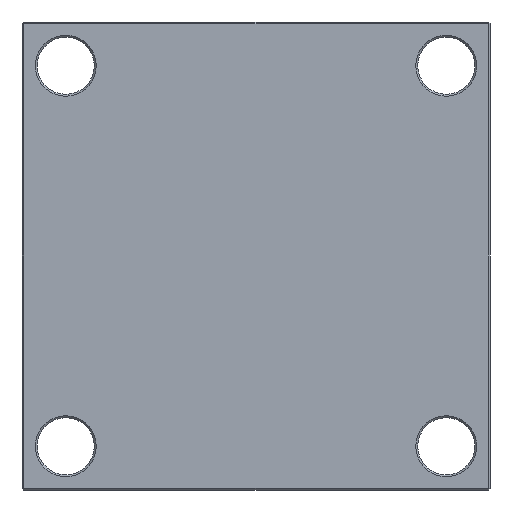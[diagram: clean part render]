
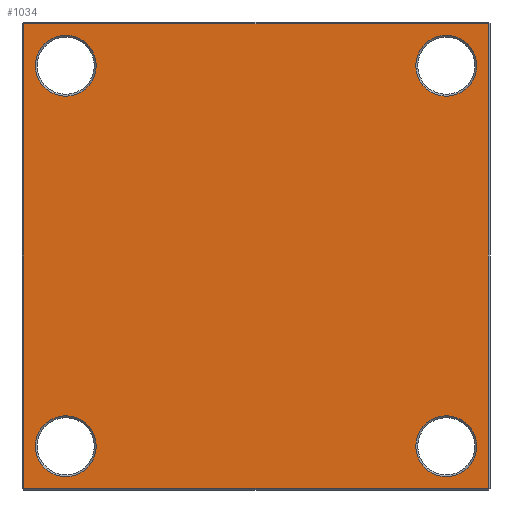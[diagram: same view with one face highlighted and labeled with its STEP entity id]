
A CAD part, front view. The second image highlights one B-rep face of the part: STEP entity #1034.
In plain terms, the highlighted planar face has unit normal (0, -1, 0).
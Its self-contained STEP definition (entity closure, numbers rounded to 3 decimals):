
#45 = DIRECTION ( 'NONE',  ( 0., 1., 0. ) ) ;
#48 = LINE ( 'NONE', #141, #2175 ) ;
#69 = LINE ( 'NONE', #726, #1301 ) ;
#71 = VERTEX_POINT ( 'NONE', #1731 ) ;
#73 = DIRECTION ( 'NONE',  ( 0., 0., 1. ) ) ;
#119 = DIRECTION ( 'NONE',  ( 0., 1., 0. ) ) ;
#141 = CARTESIAN_POINT ( 'NONE',  ( 122., 0., 0. ) ) ;
#144 = ORIENTED_EDGE ( 'NONE', *, *, #909, .T. ) ;
#145 = PLANE ( 'NONE',  #2111 ) ;
#150 = EDGE_LOOP ( 'NONE', ( #888, #2179, #1662, #826 ) ) ;
#177 = AXIS2_PLACEMENT_3D ( 'NONE', #904, #777, #1276 ) ;
#254 = AXIS2_PLACEMENT_3D ( 'NONE', #2042, #45, #1937 ) ;
#400 = EDGE_LOOP ( 'NONE', ( #417, #1569 ) ) ;
#417 = ORIENTED_EDGE ( 'NONE', *, *, #995, .T. ) ;
#469 = VECTOR ( 'NONE', #1854, 1000. ) ;
#475 = CARTESIAN_POINT ( 'NONE',  ( 122., 0., 122. ) ) ;
#508 = CIRCLE ( 'NONE', #1072, 16. ) ;
#528 = AXIS2_PLACEMENT_3D ( 'NONE', #903, #2181, #1930 ) ;
#529 = CARTESIAN_POINT ( 'NONE',  ( -100., 0., -84. ) ) ;
#590 = CARTESIAN_POINT ( 'NONE',  ( 100., 0., -116. ) ) ;
#630 = EDGE_LOOP ( 'NONE', ( #1980, #840 ) ) ;
#706 = ORIENTED_EDGE ( 'NONE', *, *, #1091, .T. ) ;
#712 = CARTESIAN_POINT ( 'NONE',  ( -122., 0., 0. ) ) ;
#726 = CARTESIAN_POINT ( 'NONE',  ( 0., 0., 122. ) ) ;
#729 = CARTESIAN_POINT ( 'NONE',  ( 0., 0., -122. ) ) ;
#760 = DIRECTION ( 'NONE',  ( 0., 0., -1. ) ) ;
#761 = ORIENTED_EDGE ( 'NONE', *, *, #1197, .T. ) ;
#777 = DIRECTION ( 'NONE',  ( 0., 1., 0. ) ) ;
#783 = EDGE_CURVE ( 'NONE', #1595, #1293, #1478, .T. ) ;
#826 = ORIENTED_EDGE ( 'NONE', *, *, #1826, .T. ) ;
#834 = CIRCLE ( 'NONE', #850, 16. ) ;
#840 = ORIENTED_EDGE ( 'NONE', *, *, #1435, .T. ) ;
#844 = DIRECTION ( 'NONE',  ( 0., 1., 0. ) ) ;
#850 = AXIS2_PLACEMENT_3D ( 'NONE', #1127, #1263, #1041 ) ;
#851 = CARTESIAN_POINT ( 'NONE',  ( -122., 0., 122. ) ) ;
#867 = VECTOR ( 'NONE', #760, 1000. ) ;
#887 = LINE ( 'NONE', #729, #469 ) ;
#888 = ORIENTED_EDGE ( 'NONE', *, *, #2009, .T. ) ;
#903 = CARTESIAN_POINT ( 'NONE',  ( -100., 0., 100. ) ) ;
#904 = CARTESIAN_POINT ( 'NONE',  ( 100., 0., 100. ) ) ;
#905 = AXIS2_PLACEMENT_3D ( 'NONE', #1142, #1585, #1955 ) ;
#909 = EDGE_CURVE ( 'NONE', #1947, #2028, #993, .T. ) ;
#970 = VERTEX_POINT ( 'NONE', #851 ) ;
#992 = CARTESIAN_POINT ( 'NONE',  ( 100., 0., -100. ) ) ;
#993 = CIRCLE ( 'NONE', #177, 16. ) ;
#995 = EDGE_CURVE ( 'NONE', #1284, #1150, #508, .T. ) ;
#998 = VERTEX_POINT ( 'NONE', #1510 ) ;
#1034 = ADVANCED_FACE ( 'NONE', ( #1498, #1170, #1441, #1219, #1618 ), #145, .F. ) ;
#1041 = DIRECTION ( 'NONE',  ( 0., 0., 1. ) ) ;
#1072 = AXIS2_PLACEMENT_3D ( 'NONE', #992, #1368, #1198 ) ;
#1084 = CARTESIAN_POINT ( 'NONE',  ( 100., 0., 84. ) ) ;
#1091 = EDGE_CURVE ( 'NONE', #2028, #1947, #2029, .T. ) ;
#1103 = VERTEX_POINT ( 'NONE', #475 ) ;
#1127 = CARTESIAN_POINT ( 'NONE',  ( -100., 0., 100. ) ) ;
#1142 = CARTESIAN_POINT ( 'NONE',  ( -100., 0., -100. ) ) ;
#1150 = VERTEX_POINT ( 'NONE', #1654 ) ;
#1160 = CIRCLE ( 'NONE', #254, 16. ) ;
#1170 = FACE_BOUND ( 'NONE', #400, .T. ) ;
#1184 = ORIENTED_EDGE ( 'NONE', *, *, #783, .T. ) ;
#1197 = EDGE_CURVE ( 'NONE', #1293, #1595, #1160, .T. ) ;
#1198 = DIRECTION ( 'NONE',  ( 0., 0., 1. ) ) ;
#1211 = DIRECTION ( 'NONE',  ( -1., 0., 0. ) ) ;
#1219 = FACE_BOUND ( 'NONE', #630, .T. ) ;
#1220 = CARTESIAN_POINT ( 'NONE',  ( -100., 0., -116. ) ) ;
#1237 = EDGE_LOOP ( 'NONE', ( #706, #144 ) ) ;
#1263 = DIRECTION ( 'NONE',  ( 0., 1., 0. ) ) ;
#1276 = DIRECTION ( 'NONE',  ( 0., 0., 1. ) ) ;
#1284 = VERTEX_POINT ( 'NONE', #590 ) ;
#1293 = VERTEX_POINT ( 'NONE', #1220 ) ;
#1301 = VECTOR ( 'NONE', #1211, 1000. ) ;
#1331 = EDGE_LOOP ( 'NONE', ( #761, #1184 ) ) ;
#1368 = DIRECTION ( 'NONE',  ( 0., 1., 0. ) ) ;
#1435 = EDGE_CURVE ( 'NONE', #998, #1517, #2180, .T. ) ;
#1441 = FACE_BOUND ( 'NONE', #1237, .T. ) ;
#1478 = CIRCLE ( 'NONE', #905, 16. ) ;
#1498 = FACE_BOUND ( 'NONE', #1331, .T. ) ;
#1510 = CARTESIAN_POINT ( 'NONE',  ( -100., 0., 116. ) ) ;
#1517 = VERTEX_POINT ( 'NONE', #1922 ) ;
#1551 = VERTEX_POINT ( 'NONE', #1875 ) ;
#1569 = ORIENTED_EDGE ( 'NONE', *, *, #1933, .T. ) ;
#1574 = DIRECTION ( 'NONE',  ( 0., 0., 1. ) ) ;
#1585 = DIRECTION ( 'NONE',  ( 0., 1., 0. ) ) ;
#1595 = VERTEX_POINT ( 'NONE', #529 ) ;
#1596 = CIRCLE ( 'NONE', #1828, 16. ) ;
#1618 = FACE_OUTER_BOUND ( 'NONE', #150, .T. ) ;
#1654 = CARTESIAN_POINT ( 'NONE',  ( 100., 0., -84. ) ) ;
#1662 = ORIENTED_EDGE ( 'NONE', *, *, #1701, .T. ) ;
#1701 = EDGE_CURVE ( 'NONE', #970, #1551, #2178, .T. ) ;
#1731 = CARTESIAN_POINT ( 'NONE',  ( 122., 0., -122. ) ) ;
#1749 = DIRECTION ( 'NONE',  ( 0., 0., 1. ) ) ;
#1754 = DIRECTION ( 'NONE',  ( 0., 1., 0. ) ) ;
#1757 = CARTESIAN_POINT ( 'NONE',  ( 100., 0., -100. ) ) ;
#1826 = EDGE_CURVE ( 'NONE', #1551, #71, #887, .T. ) ;
#1828 = AXIS2_PLACEMENT_3D ( 'NONE', #1757, #1754, #1749 ) ;
#1842 = CARTESIAN_POINT ( 'NONE',  ( 100., 0., 100. ) ) ;
#1854 = DIRECTION ( 'NONE',  ( 1., 0., 0. ) ) ;
#1875 = CARTESIAN_POINT ( 'NONE',  ( -122., 0., -122. ) ) ;
#1909 = CARTESIAN_POINT ( 'NONE',  ( 100., 0., 116. ) ) ;
#1922 = CARTESIAN_POINT ( 'NONE',  ( -100., 0., 84. ) ) ;
#1930 = DIRECTION ( 'NONE',  ( 0., 0., 1. ) ) ;
#1933 = EDGE_CURVE ( 'NONE', #1150, #1284, #1596, .T. ) ;
#1937 = DIRECTION ( 'NONE',  ( 0., 0., 1. ) ) ;
#1946 = AXIS2_PLACEMENT_3D ( 'NONE', #1842, #844, #73 ) ;
#1947 = VERTEX_POINT ( 'NONE', #1909 ) ;
#1955 = DIRECTION ( 'NONE',  ( 0., 0., 1. ) ) ;
#1980 = ORIENTED_EDGE ( 'NONE', *, *, #2158, .T. ) ;
#2009 = EDGE_CURVE ( 'NONE', #71, #1103, #48, .T. ) ;
#2028 = VERTEX_POINT ( 'NONE', #1084 ) ;
#2029 = CIRCLE ( 'NONE', #1946, 16. ) ;
#2042 = CARTESIAN_POINT ( 'NONE',  ( -100., 0., -100. ) ) ;
#2111 = AXIS2_PLACEMENT_3D ( 'NONE', #2122, #119, #2113 ) ;
#2113 = DIRECTION ( 'NONE',  ( 0., 0., 1. ) ) ;
#2122 = CARTESIAN_POINT ( 'NONE',  ( 0., 0., 0. ) ) ;
#2151 = EDGE_CURVE ( 'NONE', #1103, #970, #69, .T. ) ;
#2158 = EDGE_CURVE ( 'NONE', #1517, #998, #834, .T. ) ;
#2175 = VECTOR ( 'NONE', #1574, 1000. ) ;
#2178 = LINE ( 'NONE', #712, #867 ) ;
#2179 = ORIENTED_EDGE ( 'NONE', *, *, #2151, .T. ) ;
#2180 = CIRCLE ( 'NONE', #528, 16. ) ;
#2181 = DIRECTION ( 'NONE',  ( 0., 1., 0. ) ) ;
